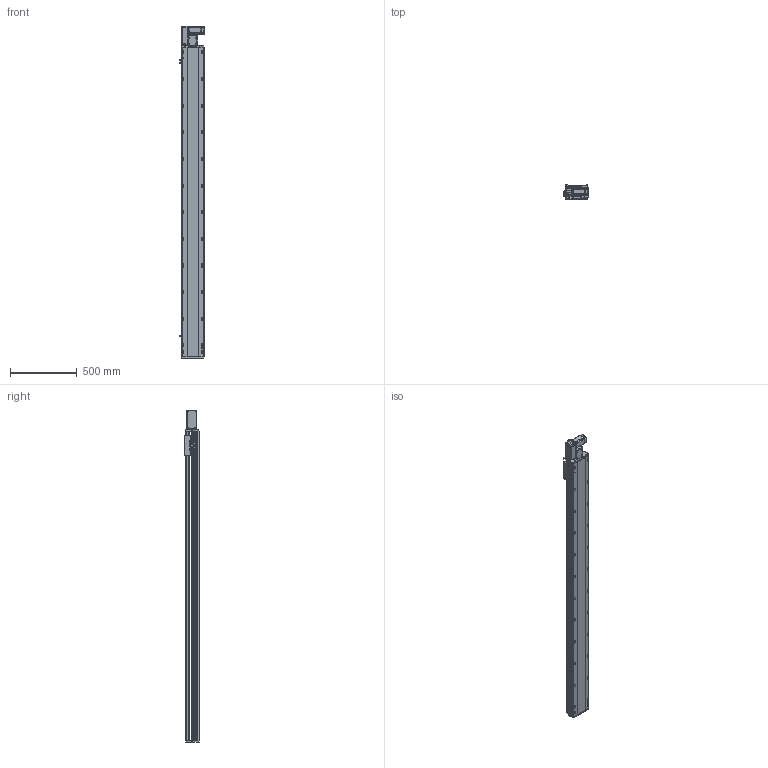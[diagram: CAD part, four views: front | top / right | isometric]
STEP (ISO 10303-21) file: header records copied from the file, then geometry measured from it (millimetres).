
FILE_DESCRIPTION (( 'STEP AP214' ), '1' );
FILE_NAME ('RTB17S-XX-2050-L-M40-C4.STEP', '2025-12-11T05:51:24', ( '' ), ( '' ), 'SwSTEP 2.0', 'SolidWorks 2018', '' );
FILE_SCHEMA (( 'AUTOMOTIVE_DESIGN' ));
Length unit declared in the file: millimetre
Products named in the file (14): RTB14-L-005P--轴承塑胶压盖^RTB17S-L-皮带座装配-400W_RTB17S-XX-XX-L-M40-C4（方程式）; 400W伺服电机^RTB17S-XX-XX-L-M40-C4（方程式）; RTB14-L-017P^RTB17S-L-皮带座装配-400W_RTB17S-XX-XX-L-M40-C4（方程式）; RTH13-BL-012感应片外置^RTB17S-XX-XX-L-M40-C4（方程式）; RTB17S-L-004丝杆螺母连接座^RTB17S-XX-XX-L-M40-C4（方程式）; RTB17S-L-007上盖^RTB17S-XX-XX-L-M40-C4（方程式）; OMRON EE-SX672 传感器^RTB17S-XX-XX-L-M40-C4（方程式）; RTB14-L-018P^RTB17S-L-皮带座装配-400W_RTB17S-XX-XX-L-M40-C4（方程式）; RTB17S-L-001侧面板^RTB17S-XX-XX-L-M40-C4（方程式）; RTB14-L-008-M20--电机板^RTB17S-L-皮带座装配-400W_RTB17S-XX-XX-L-M40-C4（方程式）; RTB17S-XX-2050-L-M40-C4; RTB17S-L-皮带座装配-400W^RTB17S-XX-XX-L-M40-C4（方程式）; RMP17S-L-014-T20--皮带座^RTB17S-L-皮带座装配-400W_RTB17S-XX-XX-L-M40-C4（方程式）; RTB17-R-011底座^RTB17S-XX-XX-L-M40-C4（方程式）
Assembly tree (16 placements, depth 3):
  RTB17S-XX-2050-L-M40-C4
    RTB17-R-011底座^RTB17S-XX-XX-L-M40-C4（方程式）
    RTB17S-L-007上盖^RTB17S-XX-XX-L-M40-C4（方程式）
    OMRON EE-SX672 传感器^RTB17S-XX-XX-L-M40-C4（方程式）  x3
    RTB17S-L-001侧面板^RTB17S-XX-XX-L-M40-C4（方程式）
    400W伺服电机^RTB17S-XX-XX-L-M40-C4（方程式）
    RTB17S-L-004丝杆螺母连接座^RTB17S-XX-XX-L-M40-C4（方程式）
    RTH13-BL-012感应片外置^RTB17S-XX-XX-L-M40-C4（方程式）
    RTB17S-L-皮带座装配-400W^RTB17S-XX-XX-L-M40-C4（方程式）
      RMP17S-L-014-T20--皮带座^RTB17S-L-皮带座装配-400W_RTB17S-XX-XX-L-M40-C4（方程式）
      RTB14-L-005P--轴承塑胶压盖^RTB17S-L-皮带座装配-400W_RTB17S-XX-XX-L-M40-C4（方程式）
      RTB14-L-008-M20--电机板^RTB17S-L-皮带座装配-400W_RTB17S-XX-XX-L-M40-C4（方程式）
      RTB14-L-017P^RTB17S-L-皮带座装配-400W_RTB17S-XX-XX-L-M40-C4（方程式）  x2
      RTB14-L-018P^RTB17S-L-皮带座装配-400W_RTB17S-XX-XX-L-M40-C4（方程式）
Bounding box: 186 x 108 x 2491 mm (x, y, z)
Volume: 20931773.7 mm3; surface area: 2433619.4 mm2
Topology: 15 solids, 15 shells, 2301 faces, 6411 edges, 4185 vertices
Faces by surface type: plane 1080, cylinder 773, bspline 301, cone 139, torus 8
Entity records: 67241 total; most frequent: CARTESIAN_POINT 19016, ORIENTED_EDGE 9666, DIRECTION 8936, EDGE_CURVE 4833, VERTEX_POINT 3173, AXIS2_PLACEMENT_3D 3103, VECTOR 2730, LINE 2730
